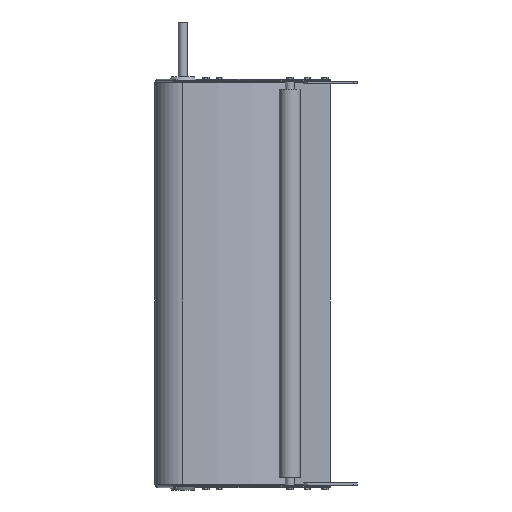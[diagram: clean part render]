
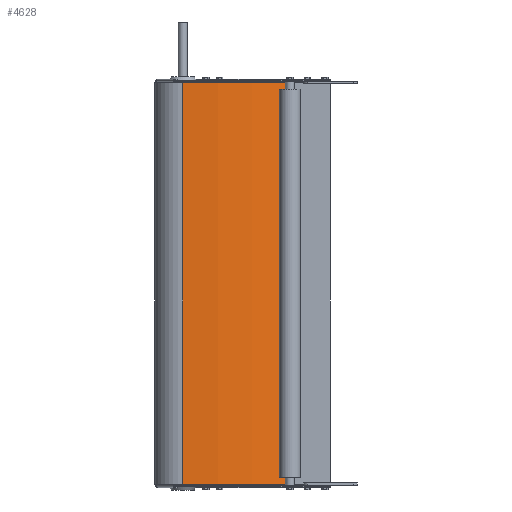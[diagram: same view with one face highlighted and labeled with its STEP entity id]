
A CAD part, front view. The second image highlights one B-rep face of the part: STEP entity #4628.
In plain terms, the highlighted cylindrical face has radius 508.8 mm (diameter 1017.6 mm), a partial arc.
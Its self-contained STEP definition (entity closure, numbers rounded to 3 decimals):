
#244 = LINE ( 'NONE', #4729, #1055 ) ;
#654 = DIRECTION ( 'NONE',  ( -1., 0., 0. ) ) ;
#666 = EDGE_CURVE ( 'NONE', #3306, #9112, #1748, .T. ) ;
#812 = ORIENTED_EDGE ( 'NONE', *, *, #4949, .F. ) ;
#1042 = ORIENTED_EDGE ( 'NONE', *, *, #666, .F. ) ;
#1055 = VECTOR ( 'NONE', #1649, 1000. ) ;
#1297 = DIRECTION ( 'NONE',  ( 0., 0., 1. ) ) ;
#1649 = DIRECTION ( 'NONE',  ( 0., 0., 1. ) ) ;
#1748 = LINE ( 'NONE', #7725, #4363 ) ;
#1933 = CARTESIAN_POINT ( 'NONE',  ( 296.602, -71.429, -457.2 ) ) ;
#2189 = AXIS2_PLACEMENT_3D ( 'NONE', #6556, #7329, #654 ) ;
#2488 = CIRCLE ( 'NONE', #2189, 508.8 ) ;
#2501 = AXIS2_PLACEMENT_3D ( 'NONE', #4374, #1297, #3081 ) ;
#3039 = AXIS2_PLACEMENT_3D ( 'NONE', #5023, #5689, #9441 ) ;
#3081 = DIRECTION ( 'NONE',  ( 1., 0., 0. ) ) ;
#3306 = VERTEX_POINT ( 'NONE', #5612 ) ;
#3782 = ORIENTED_EDGE ( 'NONE', *, *, #7858, .T. ) ;
#3858 = CYLINDRICAL_SURFACE ( 'NONE', #2501, 508.8 ) ;
#4363 = VECTOR ( 'NONE', #9089, 1000. ) ;
#4374 = CARTESIAN_POINT ( 'NONE',  ( 64.602, 381.399, -457.2 ) ) ;
#4559 = VERTEX_POINT ( 'NONE', #1933 ) ;
#4628 = ADVANCED_FACE ( 'NONE', ( #5044 ), #3858, .T. ) ;
#4729 = CARTESIAN_POINT ( 'NONE',  ( 296.602, -71.429, -457.2 ) ) ;
#4949 = EDGE_CURVE ( 'NONE', #9112, #5680, #7542, .T. ) ;
#5023 = CARTESIAN_POINT ( 'NONE',  ( 64.602, 381.399, 457.2 ) ) ;
#5044 = FACE_OUTER_BOUND ( 'NONE', #8159, .T. ) ;
#5597 = CARTESIAN_POINT ( 'NONE',  ( 63.571, -127.4, 457.2 ) ) ;
#5612 = CARTESIAN_POINT ( 'NONE',  ( 63.571, -127.4, -457.2 ) ) ;
#5680 = VERTEX_POINT ( 'NONE', #5721 ) ;
#5689 = DIRECTION ( 'NONE',  ( 0., 0., 1. ) ) ;
#5721 = CARTESIAN_POINT ( 'NONE',  ( 296.602, -71.429, 457.2 ) ) ;
#6399 = ORIENTED_EDGE ( 'NONE', *, *, #8289, .T. ) ;
#6556 = CARTESIAN_POINT ( 'NONE',  ( 64.602, 381.399, -457.2 ) ) ;
#7329 = DIRECTION ( 'NONE',  ( 0., 0., 1. ) ) ;
#7542 = CIRCLE ( 'NONE', #3039, 508.8 ) ;
#7725 = CARTESIAN_POINT ( 'NONE',  ( 63.571, -127.4, -457.2 ) ) ;
#7858 = EDGE_CURVE ( 'NONE', #4559, #5680, #244, .T. ) ;
#8159 = EDGE_LOOP ( 'NONE', ( #812, #1042, #6399, #3782 ) ) ;
#8289 = EDGE_CURVE ( 'NONE', #3306, #4559, #2488, .T. ) ;
#9089 = DIRECTION ( 'NONE',  ( 0., 0., 1. ) ) ;
#9112 = VERTEX_POINT ( 'NONE', #5597 ) ;
#9441 = DIRECTION ( 'NONE',  ( -1., 0., 0. ) ) ;
